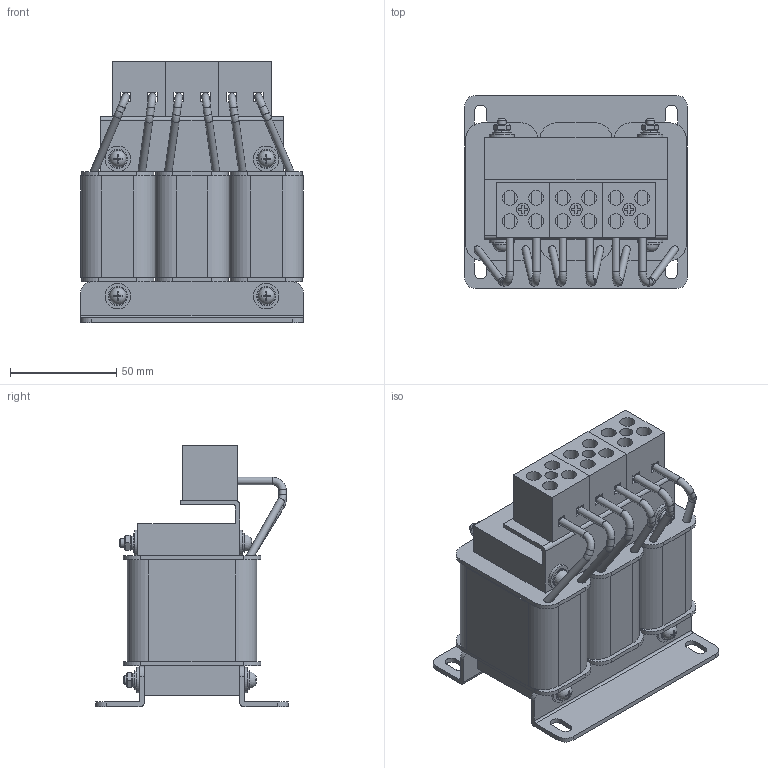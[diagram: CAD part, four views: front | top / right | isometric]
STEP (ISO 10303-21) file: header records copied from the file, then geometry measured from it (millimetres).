
FILE_DESCRIPTION(('STEP AP203'), '1');
FILE_NAME('栖闉罻 _ ISF-5.5_15.5-4', '', ('UNSPECIFIED'), ('UNSPECIFIED'), 'ASCON STEP Converter 1.6', 'ASCON Math Kernel', '');
FILE_SCHEMA(('CONFIG_CONTROL_DESIGN'));
Length unit declared in the file: millimetre
Products named in the file (14): ISF-2.2_5.8-4; ISF-5.5_15.5-4
Assembly tree (45 placements, depth 2):
  ISF-2.2_5.8-4
    ISF-2.2_5.8-4
    ISF-2.2_5.8-4  x2
    ISF-2.2_5.8-4  x3
    ISF-5.5_15.5-4  x3
    ISF-5.5_15.5-4  x3
    ISF-5.5_15.5-4
    ISF-5.5_15.5-4  x3
    ISF-5.5_15.5-4  x8
    ISF-5.5_15.5-4  x8
    ISF-5.5_15.5-4  x4
    ISF-5.5_15.5-4  x4
    ISF-5.5_15.5-4  x4
    ISF-5.5_15.5-4
Bounding box: 105 x 91 x 123.2 mm (x, y, z)
Volume: 506936.1 mm3; surface area: 145477.1 mm2
Topology: 50 solids, 50 shells, 635 faces, 1509 edges, 978 vertices
Faces by surface type: plane 460, cylinder 139, torus 24, cone 12
Full cylindrical faces by diameter (mm): 3.5 x18, 4 x32, 6 x3, 7 x12, 9 x8, 12 x8
Entity records: 8471 total; most frequent: CARTESIAN_POINT 1620, DIRECTION 1168, ORIENTED_EDGE 990, EDGE_CURVE 495, AXIS2_PLACEMENT_3D 418, VERTEX_POINT 351, LINE 332, VECTOR 332
